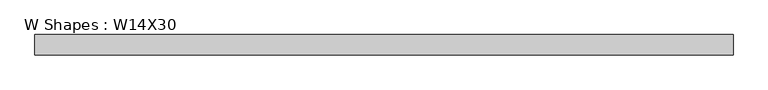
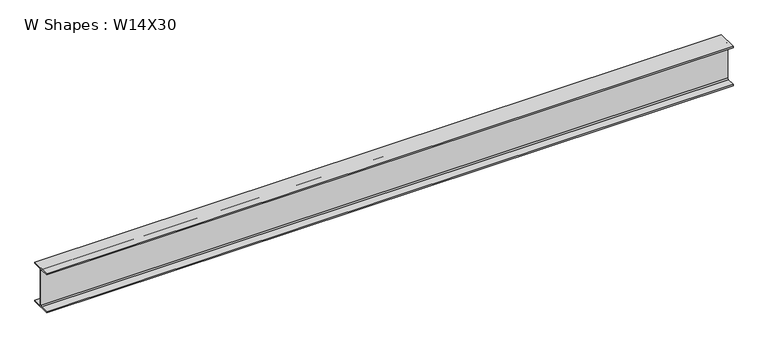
"""IFC4 building model written with IfcOpenShell, lengths in millimetres: beam geometry, W Shapes : W14X30."""

from ifc_helpers import new_model, si_unit, point, frame, frame_2d, origin, place, context, project, spatial, polyline, circle_curve, trimmed, segment, composite_curve, outline, extrude, source, transform, mapped, element, save


def w_shapes_w14x30_ed609655(model_context):
    return source(origin(), model_context, "Body", "SweptSolid", [
        extrude(outline(composite_curve([segment(polyline([(85.471, -165.354), (85.471, -175.26), (-85.471, -175.26), (-85.471, -165.354), (-13.589, -165.354)]), True, "CONTINUOUS"), segment(trimmed(circle_curve(frame_2d((-13.589, -155.194)), 10.16), [point((-13.589, -165.354))], [point((-3.429, -155.194))], True, "CARTESIAN"), True, "CONTINUOUS"), segment(polyline([(-3.429, -155.194), (-3.429, 155.194)]), True, "CONTINUOUS"), segment(trimmed(circle_curve(frame_2d((-13.589, 155.194)), 10.16), [point((-3.429, 155.194))], [point((-13.589, 165.354))], True, "CARTESIAN"), True, "CONTINUOUS"), segment(polyline([(-13.589, 165.354), (-85.471, 165.354), (-85.471, 175.26), (85.471, 175.26), (85.471, 165.354), (13.589, 165.354)]), True, "CONTINUOUS"), segment(trimmed(circle_curve(frame_2d((13.589, 155.194)), 10.16), [point((13.589, 165.354))], [point((3.429, 155.194))], True, "CARTESIAN"), True, "CONTINUOUS"), segment(polyline([(3.429, 155.194), (3.429, -155.194)]), True, "CONTINUOUS"), segment(trimmed(circle_curve(frame_2d((13.589, -155.194)), 10.16), [point((3.429, -155.194))], [point((13.589, -165.354))], True, "CARTESIAN"), True, "CONTINUOUS"), segment(polyline([(13.589, -165.354), (85.471, -165.354)]), True, "CONTINUOUS")], self_intersect=False)), frame((-2911.729, 0.0, 0.0), z_axis=(1.0, 0.0, 0.0), x_axis=(0.0, 1.0, 0.0)), (0.0, 0.0, 1.0), 5823.458),
    ])


if __name__ == "__main__":
    model = new_model("IFC4")
    model_context = context("Model", 3, world=origin())
    ifc_project = project(units=[si_unit("LENGTHUNIT", "METRE", prefix="MILLI")], contexts=[model_context])
    site = spatial("IfcSite", under=ifc_project)
    building = spatial("IfcBuilding", under=site)
    placement = place(None, origin())
    w_shapes_w14x30_shape = w_shapes_w14x30_ed609655(model_context)
    element("IfcBeam", 1, ObjectType="W Shapes : W14X30", at=placement, inside=building, context=model_context, shape_type="MappedRepresentation", body=[
        mapped(w_shapes_w14x30_shape, transform((0.0, 0.0, 0.0), x_axis=(1.0, 0.0, 0.0), y_axis=(0.0, 1.0, 0.0), z_axis=(0.0, 0.0, 1.0))),
    ])
    save(model, "model.ifc")
